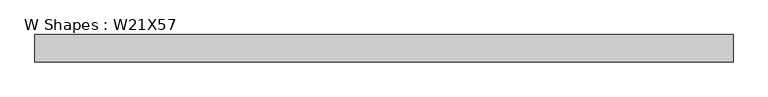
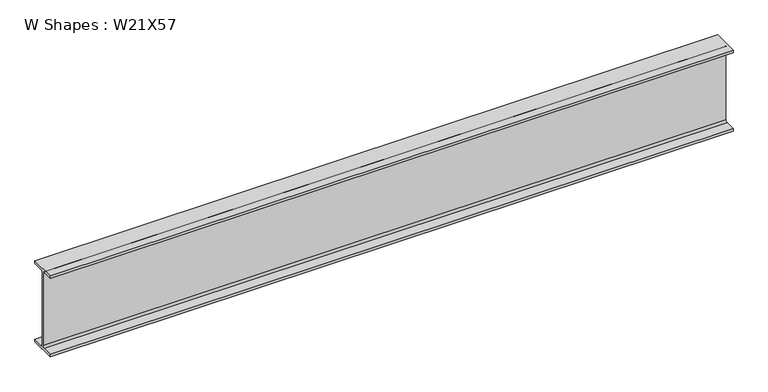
"""IFC4 building model written with IfcOpenShell, lengths in millimetres: beam geometry, W Shapes : W21X57."""

from ifc_helpers import new_model, si_unit, point, frame, frame_2d, origin, place, context, project, spatial, polyline, circle_curve, trimmed, segment, composite_curve, outline, extrude, source, transform, mapped, element, save


def w_shapes_w21x57_205b0bd9(model_context):
    return source(origin(), model_context, "Body", "SweptSolid", [
        extrude(outline(composite_curve([segment(polyline([(83.312, -251.46), (83.312, -267.97), (-83.312, -267.97), (-83.312, -251.46), (-17.8435, -251.46)]), True, "CONTINUOUS"), segment(trimmed(circle_curve(frame_2d((-17.8435, -238.76)), 12.7), [point((-17.8435, -251.46))], [point((-5.1435, -238.76))], True, "CARTESIAN"), True, "CONTINUOUS"), segment(polyline([(-5.1435, -238.76), (-5.1435, 238.76)]), True, "CONTINUOUS"), segment(trimmed(circle_curve(frame_2d((-17.8435, 238.76)), 12.7), [point((-5.1435, 238.76))], [point((-17.8435, 251.46))], True, "CARTESIAN"), True, "CONTINUOUS"), segment(polyline([(-17.8435, 251.46), (-83.312, 251.46), (-83.312, 267.97), (83.312, 267.97), (83.312, 251.46), (17.8435, 251.46)]), True, "CONTINUOUS"), segment(trimmed(circle_curve(frame_2d((17.8435, 238.76)), 12.7), [point((17.8435, 251.46))], [point((5.1435, 238.76))], True, "CARTESIAN"), True, "CONTINUOUS"), segment(polyline([(5.1435, 238.76), (5.1435, -238.76)]), True, "CONTINUOUS"), segment(trimmed(circle_curve(frame_2d((17.8435, -238.76)), 12.7), [point((5.1435, -238.76))], [point((17.8435, -251.46))], True, "CARTESIAN"), True, "CONTINUOUS"), segment(polyline([(17.8435, -251.46), (83.312, -251.46)]), True, "CONTINUOUS")], self_intersect=False)), frame((-2169.259694, 0.0, 0.0), z_axis=(1.0, 0.0, 0.0), x_axis=(0.0, 1.0, 0.0)), (0.0, 0.0, 1.0), 4263.6498225),
    ])


if __name__ == "__main__":
    model = new_model("IFC4")
    model_context = context("Model", 3, world=origin())
    ifc_project = project(units=[si_unit("LENGTHUNIT", "METRE", prefix="MILLI")], contexts=[model_context])
    site = spatial("IfcSite", under=ifc_project)
    building = spatial("IfcBuilding", under=site)
    placement = place(None, origin())
    w_shapes_w21x57_shape = w_shapes_w21x57_205b0bd9(model_context)
    element("IfcBeam", 1, ObjectType="W Shapes : W21X57", at=placement, inside=building, context=model_context, shape_type="MappedRepresentation", body=[
        mapped(w_shapes_w21x57_shape, transform((0.0, 0.0, 0.0), x_axis=(1.0, 0.0, 0.0), y_axis=(0.0, 1.0, 0.0), z_axis=(0.0, 0.0, 1.0))),
    ])
    save(model, "model.ifc")
